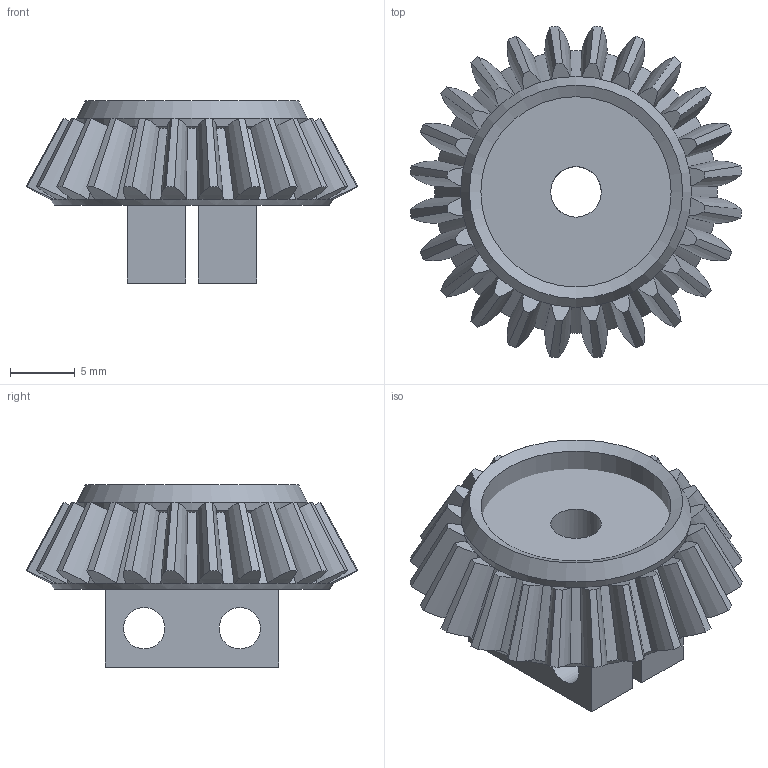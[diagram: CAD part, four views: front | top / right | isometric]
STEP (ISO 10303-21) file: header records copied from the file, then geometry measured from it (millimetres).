
FILE_DESCRIPTION(/* description */ (''),/* implementation_level */ '2;1');
FILE_NAME(/* name */ '\\192.168.3.8\kumagai\Develop\CAD\NakataOmni\DriveUnitR3\BevelGear_24.stp',/* time_stamp */ '2024-05-21T08:16:26+09:00',/* author */ ('kumagai'),/* organization */ (''),/* preprocessor_version */ 'ST-DEVELOPER v19',/* originating_system */ 'Autodesk Inventor 2023',/* authorisation */ '');
FILE_SCHEMA (('AUTOMOTIVE_DESIGN { 1 0 10303 214 3 1 1 }'));
Length unit declared in the file: millimetre
Products named in the file (1): かさ歯車1
Bounding box: 25.65 x 25.65 x 14.07 mm (x, y, z)
Volume: 2787.6 mm3; surface area: 2508.7 mm2
Topology: 2 solids, 2 shells, 169 faces, 402 edges, 235 vertices
Faces by surface type: cone 101, bspline 48, plane 14, cylinder 6
Full cylindrical faces by diameter (mm): 3.2 x4, 3.9 x1, 14.698 x1
Entity records: 7274 total; most frequent: CARTESIAN_POINT 3732, ORIENTED_EDGE 804, DIRECTION 621, EDGE_CURVE 402, AXIS2_PLACEMENT_3D 289, VERTEX_POINT 235, B_SPLINE_CURVE_WITH_KNOTS 192, EDGE_LOOP 179
